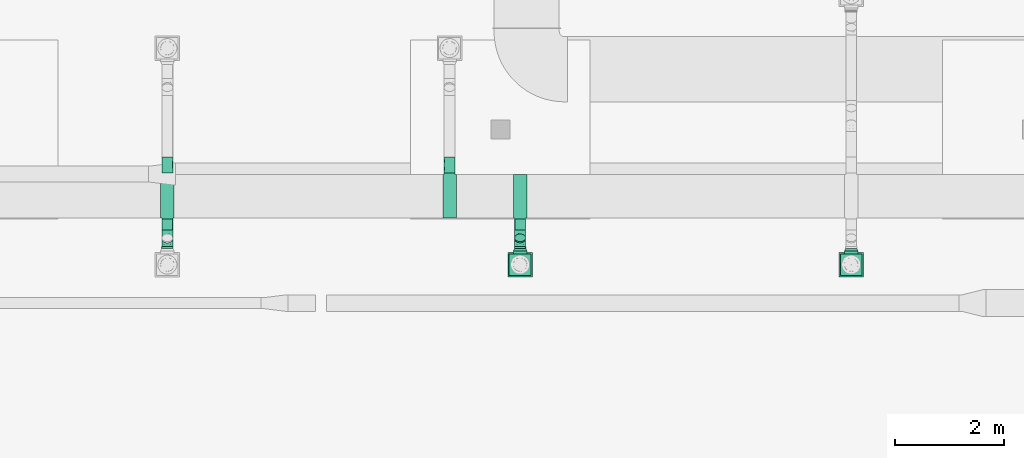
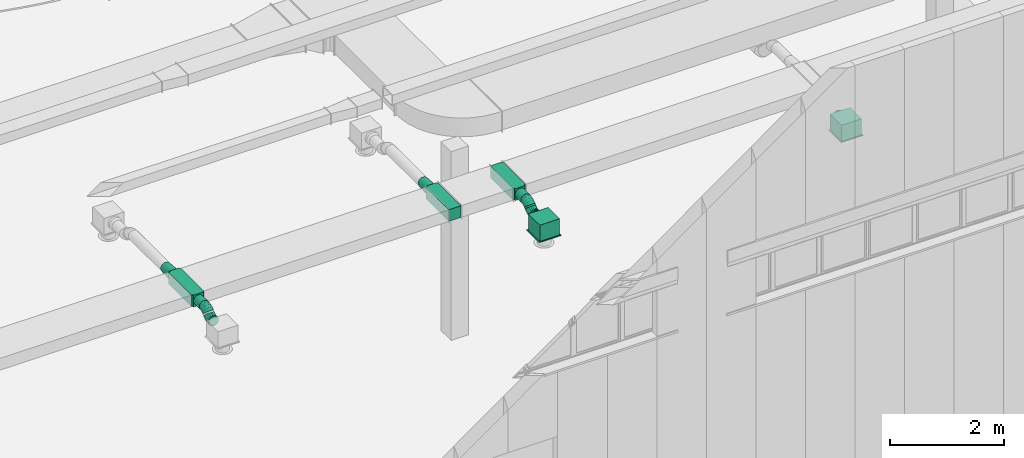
# One storey, part 262 of 302: 11 flow fittings, 5 flow segments, 2 flow terminals.
"""IFC2X3 building model written with IfcOpenShell, lengths in metres."""

from ifc_helpers import new_model, entity, si_unit, converted_unit, derived_unit, direction, frame, frame_2d, origin, origin_2d_with_axis, place, context, subcontext, project, spatial, polyline, rectangle, circle, outline, extrude, faceted_brep, source, transform, mapped, material, material_list, type_object, type_shapes, element, save


model = new_model("IFC2X3")

# Units and contexts
model_context = context("Model", 3, precision=1e-05, world=origin(), true_north=direction((6.12303176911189e-17, 1.0)))
body_context = subcontext(model_context, "Body", "Model", "MODEL_VIEW")
ifc_project = project(units=[si_unit("LENGTHUNIT", "METRE"), si_unit("AREAUNIT", "SQUARE_METRE"), si_unit("VOLUMEUNIT", "CUBIC_METRE"), converted_unit("PLANEANGLEUNIT", "DEGREE", entity("IfcRatioMeasure", 0.0174532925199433), si_unit("PLANEANGLEUNIT", "RADIAN"), dimensions=[0, 0, 0, 0, 0, 0, 0]), si_unit("MASSUNIT", "GRAM", prefix="KILO"), derived_unit("MASSDENSITYUNIT", [(si_unit("MASSUNIT", "GRAM", prefix="KILO"), 1), (si_unit("LENGTHUNIT", "METRE"), -3)]), derived_unit("MOMENTOFINERTIAUNIT", [(si_unit("LENGTHUNIT", "METRE"), 4)]), si_unit("TIMEUNIT", "SECOND"), si_unit("FREQUENCYUNIT", "HERTZ"), si_unit("THERMODYNAMICTEMPERATUREUNIT", "DEGREE_CELSIUS"), derived_unit("THERMALTRANSMITTANCEUNIT", [(si_unit("MASSUNIT", "GRAM", prefix="KILO"), 1), (si_unit("THERMODYNAMICTEMPERATUREUNIT", "KELVIN"), -1), (si_unit("TIMEUNIT", "SECOND"), -3)]), derived_unit("VOLUMETRICFLOWRATEUNIT", [(si_unit("LENGTHUNIT", "METRE"), 3), (si_unit("TIMEUNIT", "SECOND"), -1)]), si_unit("ELECTRICCURRENTUNIT", "AMPERE"), si_unit("ELECTRICVOLTAGEUNIT", "VOLT"), si_unit("POWERUNIT", "WATT"), si_unit("FORCEUNIT", "NEWTON", prefix="KILO"), si_unit("ILLUMINANCEUNIT", "LUX"), si_unit("LUMINOUSFLUXUNIT", "LUMEN"), si_unit("LUMINOUSINTENSITYUNIT", "CANDELA"), derived_unit("USERDEFINED", [(si_unit("MASSUNIT", "GRAM", prefix="KILO"), -1), (si_unit("LENGTHUNIT", "METRE"), -2), (si_unit("TIMEUNIT", "SECOND"), 3), (si_unit("LUMINOUSFLUXUNIT", "LUMEN"), 1)]), derived_unit("LINEARVELOCITYUNIT", [(si_unit("LENGTHUNIT", "METRE"), 1), (si_unit("TIMEUNIT", "SECOND"), -1)]), si_unit("PRESSUREUNIT", "PASCAL"), derived_unit("USERDEFINED", [(si_unit("LENGTHUNIT", "METRE"), -2), (si_unit("MASSUNIT", "GRAM", prefix="KILO"), 1), (si_unit("TIMEUNIT", "SECOND"), -2)]), derived_unit("LINEARFORCEUNIT", [(si_unit("MASSUNIT", "GRAM", prefix="KILO"), 1), (si_unit("LENGTHUNIT", "METRE"), 1), (si_unit("TIMEUNIT", "SECOND"), -2), (si_unit("LENGTHUNIT", "METRE"), -1)]), derived_unit("PLANARFORCEUNIT", [(si_unit("MASSUNIT", "GRAM", prefix="KILO"), 1), (si_unit("LENGTHUNIT", "METRE"), 1), (si_unit("TIMEUNIT", "SECOND"), -2), (si_unit("LENGTHUNIT", "METRE"), -2)])], contexts=[model_context])

# Site, building, storey
site_placement = place(None, origin())
site = spatial("IfcSite", under=ifc_project, at=site_placement, Name="Default", CompositionType="ELEMENT")
building_placement = place(site_placement, origin())
building = spatial("IfcBuilding", under=site, at=building_placement, CompositionType="ELEMENT")
storey_placement = place(building_placement, frame((0.0, 0.0, -1.3)))
storey = spatial("IfcBuildingStorey", under=building, at=storey_placement, Name="00_EG", CompositionType="ELEMENT", Elevation=-1.3)

# Flow segments
duct_segment_type = type_object("IfcDuctSegmentType", Name="Rund:STR_Segment_RND_GS_EA", PredefinedType="NOTDEFINED")
flow_segment_1_placement = place(storey_placement, origin())
element("IfcFlowSegment", 1, at=flow_segment_1_placement, inside=storey, type_object=duct_segment_type, Name="Rund:STR_Segment_RND_GS_EA", ObjectType="Rund:STR_Segment_RND_GS_EA", context=body_context, shape_type="SweptSolid", body=[
    extrude(circle(Radius=0.1, at=origin_2d_with_axis()), frame((-246.571240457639, 21.4325516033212, 5.04357873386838), z_axis=(0.0, 0.707106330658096, 0.707107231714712), x_axis=(1.0, 0.0, 0.0)), (0.0, 0.0, 1.0), 0.0323041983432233),
])
flow_segment_2_placement = place(storey_placement, origin())
element("IfcFlowSegment", 2, at=flow_segment_2_placement, inside=storey, type_object=duct_segment_type, Name="Rund:STR_Segment_RND_GS_EA", ObjectType="Rund:STR_Segment_RND_GS_EA", context=body_context, shape_type="SweptSolid", body=[
    extrude(circle(Radius=0.1, at=origin_2d_with_axis()), frame((-246.571240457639, 21.2618155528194, 4.985), z_axis=(0.0, 1.0, 0.0), x_axis=(1.0, 0.0, 0.0)), (0.0, 0.0, 1.0), 0.0293146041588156),
])
flow_segment_3_placement = place(storey_placement, origin())
element("IfcFlowSegment", 3, at=flow_segment_3_placement, inside=storey, type_object=duct_segment_type, Name="Rund:STR_Segment_RND_GS_EA", ObjectType="Rund:STR_Segment_RND_GS_EA", context=body_context, shape_type="SweptSolid", body=[
    extrude(circle(Radius=0.1, at=origin_2d_with_axis()), frame((-246.571240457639, 21.5968155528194, 5.12500000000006), z_axis=(0.0, 1.0, 0.0), x_axis=(1.0, 0.0, 0.0)), (0.0, 0.0, 1.0), 0.200000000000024),
])
flow_segment_4_placement = place(storey_placement, origin())
element("IfcFlowSegment", 4, at=flow_segment_4_placement, inside=storey, type_object=duct_segment_type, Name="Rund:STR_Segment_RND_GS_EA", ObjectType="Rund:STR_Segment_RND_GS_EA", context=body_context, shape_type="SweptSolid", body=[
    extrude(circle(Radius=0.1, at=origin_2d_with_axis()), frame((-253.062285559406, 21.2618155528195, 4.985), z_axis=(0.0, 1.0, 0.0), x_axis=(1.0, 0.0, 0.0)), (0.0, 0.0, 1.0), 0.0293146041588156),
])
flow_segment_5_placement = place(storey_placement, origin())
element("IfcFlowSegment", 5, at=flow_segment_5_placement, inside=storey, type_object=duct_segment_type, Name="Rund:STR_Segment_RND_GS_EA", ObjectType="Rund:STR_Segment_RND_GS_EA", context=body_context, shape_type="SweptSolid", body=[
    extrude(circle(Radius=0.1, at=origin_2d_with_axis()), frame((-253.062285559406, 21.5968155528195, 5.12500000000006), z_axis=(0.0, 1.0, 0.0), x_axis=(1.0, 0.0, 0.0)), (0.0, 0.0, 1.0), 0.200000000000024),
])

# Flow fittings
ifc_material = material(Name="<Unnamed>")
duct_fitting_type_1 = type_object("IfcDuctFittingType", Name="STR_RCT_Cross:STR_Cross_RCT_GS_RA", PredefinedType="NOTDEFINED", material=ifc_material)
shared_shape_1 = source(origin(), body_context, "Body", "SweptSolid", [
    extrude(outline(polyline([(-0.424999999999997, 0.0999999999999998), (-0.424999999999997, -0.1), (-0.400000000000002, -0.1), (-0.400000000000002, -0.124999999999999), (0.399999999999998, -0.124999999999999), (0.399999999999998, -0.100000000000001), (0.425000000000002, -0.100000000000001), (0.425000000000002, 0.0999999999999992), (0.399999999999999, 0.0999999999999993), (0.399999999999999, 0.125000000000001), (-0.400000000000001, 0.125000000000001), (-0.400000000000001, 0.0999999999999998), (-0.424999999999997, 0.0999999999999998)])), frame((0.0, 0.0, -0.125000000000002), z_axis=(0.0, 0.0, -1.0), x_axis=(0.0, 1.0, 0.0)), (0.0, 0.0, -1.0), 0.25),
])
type_shapes(duct_fitting_type_1, [shared_shape_1])
flow_fitting_1_placement = place(storey_placement, frame((-253.062285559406, 22.2218155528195, 5.125)))
element("IfcFlowFitting", 6, at=flow_fitting_1_placement, inside=storey, type_object=duct_fitting_type_1, material=ifc_material, Name="STR_RCT_Cross:STR_Cross_RCT_GS_RA", ObjectType="STR_RCT_Cross:STR_Cross_RCT_GS_RA", context=body_context, shape_type="MappedRepresentation", body=[
    mapped(shared_shape_1, transform((0.0, 0.0, 0.0), scale=1.0)),
])
duct_fitting_type_2 = type_object("IfcDuctFittingType", Name="STR_OVL_Transition:STR_Transition_OVL_GS_EA", PredefinedType="NOTDEFINED", material=ifc_material)
shared_shape_2 = source(origin(), body_context, "Body", "Brep", [
    faceted_brep([(0.300000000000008, 0.0999999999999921, 0.00158749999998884), (0.300000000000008, 0.0966466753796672, 0.0270585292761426), (0.300000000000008, 0.0868152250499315, 0.050793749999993), (0.300000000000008, 0.0711756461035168, 0.0711756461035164), (0.300000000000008, 0.0507937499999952, 0.0868152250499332), (0.300000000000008, 0.0270585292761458, 0.0966466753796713), (0.300000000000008, 0.00158749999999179, 0.0999999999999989), (0.300000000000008, -0.00158750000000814, 0.0999999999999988), (0.300000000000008, -0.0270585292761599, 0.0966466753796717), (0.300000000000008, -0.0507937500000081, 0.0868152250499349), (0.300000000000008, -0.0711756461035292, 0.07117564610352), (0.300000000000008, -0.0868152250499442, 0.0507937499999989), (0.300000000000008, -0.0966466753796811, 0.0270585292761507), (0.300000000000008, -0.100000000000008, 0.00158749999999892), (0.300000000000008, -0.100000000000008, -0.00158750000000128), (0.300000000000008, -0.0966466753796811, -0.0270585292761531), (0.300000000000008, -0.0868152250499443, -0.0507937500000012), (0.300000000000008, -0.0711756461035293, -0.0711756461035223), (0.300000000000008, -0.0507937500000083, -0.0868152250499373), (0.300000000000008, -0.0270585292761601, -0.0966466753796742), (0.300000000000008, -0.00158750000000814, -0.100000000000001), (0.300000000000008, 0.0015874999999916, -0.100000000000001), (0.300000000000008, 0.0270585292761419, -0.0966466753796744), (0.300000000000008, 0.0507937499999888, -0.0868152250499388), (0.300000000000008, 0.0711756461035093, -0.0711756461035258), (0.300000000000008, 0.0868152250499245, -0.0507937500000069), (0.300000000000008, 0.0966466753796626, -0.0270585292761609), (0.300000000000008, 0.0999999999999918, -0.00158750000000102), (0.0, 0.00158749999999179, -0.125000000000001), (0.0, -0.00158750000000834, -0.125000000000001), (0.0, -0.0270585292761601, -0.121646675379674), (0.0, -0.0507937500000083, -0.111815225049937), (0.0, -0.0711756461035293, -0.0961756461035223), (0.0, -0.0868152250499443, -0.0757937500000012), (0.0, -0.0966466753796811, -0.0520585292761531), (0.0, -0.100000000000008, -0.026587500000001), (0.0, -0.100000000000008, 0.0265874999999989), (0.0, -0.0966466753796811, 0.0520585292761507), (0.0, -0.0868152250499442, 0.0757937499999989), (0.0, -0.0711756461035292, 0.0961756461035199), (0.0, -0.0507937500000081, 0.111815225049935), (0.0, -0.0270585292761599, 0.121646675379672), (0.0, -0.00158750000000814, 0.124999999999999), (0.0, 0.00158749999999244, 0.124999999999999), (0.0, 0.0270585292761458, 0.121646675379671), (0.0, 0.0507937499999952, 0.111815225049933), (0.0, 0.0711756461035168, 0.0961756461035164), (0.0, 0.0868152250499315, 0.0757937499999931), (0.0, 0.0966466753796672, 0.0520585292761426), (0.0, 0.0999999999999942, 0.026587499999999), (0.0, 0.0999999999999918, -0.0265875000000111), (0.0, 0.0966466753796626, -0.052058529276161), (0.0, 0.0868152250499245, -0.0757937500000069), (0.0, 0.0711756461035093, -0.0961756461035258), (0.0, 0.0507937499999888, -0.111815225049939), (0.0, 0.0270585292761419, -0.121646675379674), (0.154247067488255, -0.0203412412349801, 0.110342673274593), (0.145752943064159, -0.0981965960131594, 0.03319516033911), (0.107489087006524, -0.00158750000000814, 0.116042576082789), (0.149999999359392, -0.0614972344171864, 0.0921633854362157), (0.15000000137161, -0.0392483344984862, 0.105008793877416), (0.150000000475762, -0.0796633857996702, 0.0739972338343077), (0.192510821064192, -0.100000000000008, 0.0105449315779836), (0.149999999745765, -0.0925087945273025, 0.0517483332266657), (0.107489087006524, -0.100000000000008, -0.0176300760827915), (0.154247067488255, -0.0981965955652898, -0.0324873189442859), (0.145752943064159, -0.0203412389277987, -0.111050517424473), (0.149999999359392, -0.0796633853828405, -0.0739972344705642), (0.15000000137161, -0.0925087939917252, -0.0517483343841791), (0.150000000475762, -0.0614972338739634, -0.0921633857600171), (0.192511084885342, -0.00158750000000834, -0.10895740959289), (0.149999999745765, -0.0392483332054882, -0.105008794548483), (0.107489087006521, 0.0015874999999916, -0.116042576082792), (0.154247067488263, 0.0203412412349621, -0.110342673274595), (0.145752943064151, 0.0981965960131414, -0.0331951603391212), (0.149999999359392, 0.0614972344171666, -0.0921633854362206), (0.15000000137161, 0.0392483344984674, -0.105008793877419), (0.150000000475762, 0.0796633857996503, -0.0739972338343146), (0.192510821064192, 0.0999999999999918, -0.0105449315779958), (0.149999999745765, 0.0925087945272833, -0.0517483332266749), (0.107489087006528, 0.0999999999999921, 0.0176300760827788), (0.154247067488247, 0.0981965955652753, 0.0324873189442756), (0.145752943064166, 0.0203412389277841, 0.11105051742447), (0.149999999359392, 0.079663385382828, 0.0739972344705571), (0.15000000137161, 0.0925087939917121, 0.0517483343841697), (0.150000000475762, 0.0614972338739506, 0.0921633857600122), (0.192510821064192, 0.00158749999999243, 0.108957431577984), (0.149999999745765, 0.0392483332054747, 0.105008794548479)], [[[0, 1, 2, 3, 4, 5, 6, 7, 8, 9, 10, 11, 12, 13, 14, 15, 16, 17, 18, 19, 20, 21, 22, 23, 24, 25, 26, 27]], [[28, 29, 30, 31, 32, 33, 34, 35, 36, 37, 38, 39, 40, 41, 42, 43, 44, 45, 46, 47, 48, 49, 50, 51, 52, 53, 54, 55]], [[56, 42, 41]], [[36, 57, 37]], [[56, 7, 58, 42]], [[40, 39, 59]], [[41, 60, 56]], [[59, 60, 40]], [[61, 59, 39]], [[41, 40, 60]], [[8, 56, 60]], [[10, 9, 59]], [[9, 60, 59]], [[57, 36, 62, 13]], [[38, 37, 63]], [[63, 61, 38]], [[12, 57, 13]], [[12, 63, 57]], [[9, 8, 60]], [[10, 61, 11]], [[12, 11, 63]], [[63, 11, 61]], [[37, 57, 63]], [[61, 10, 59]], [[61, 39, 38]], [[7, 56, 8]], [[35, 64, 14, 13, 62, 36]], [[65, 35, 34]], [[29, 66, 30]], [[65, 14, 64, 35]], [[33, 32, 67]], [[34, 68, 65]], [[67, 68, 33]], [[69, 67, 32]], [[34, 33, 68]], [[15, 65, 68]], [[17, 16, 67]], [[16, 68, 67]], [[66, 29, 70, 20]], [[31, 30, 71]], [[71, 69, 31]], [[19, 66, 20]], [[19, 71, 66]], [[16, 15, 68]], [[17, 69, 18]], [[19, 18, 71]], [[71, 18, 69]], [[30, 66, 71]], [[69, 17, 67]], [[69, 32, 31]], [[14, 65, 15]], [[28, 72, 21, 20, 70, 29]], [[73, 28, 55]], [[50, 74, 51]], [[73, 21, 72, 28]], [[54, 53, 75]], [[55, 76, 73]], [[75, 76, 54]], [[77, 75, 53]], [[55, 54, 76]], [[22, 73, 76]], [[24, 23, 75]], [[23, 76, 75]], [[74, 50, 78, 27]], [[52, 51, 79]], [[79, 77, 52]], [[26, 74, 27]], [[26, 79, 74]], [[23, 22, 76]], [[24, 77, 25]], [[26, 25, 79]], [[79, 25, 77]], [[51, 74, 79]], [[77, 24, 75]], [[77, 53, 52]], [[21, 73, 22]], [[49, 80, 0, 27, 78, 50]], [[81, 49, 48]], [[43, 82, 44]], [[81, 0, 80, 49]], [[47, 46, 83]], [[48, 84, 81]], [[83, 84, 47]], [[85, 83, 46]], [[48, 47, 84]], [[1, 81, 84]], [[3, 2, 83]], [[2, 84, 83]], [[82, 43, 86, 6]], [[45, 44, 87]], [[87, 85, 45]], [[5, 82, 6]], [[5, 87, 82]], [[2, 1, 84]], [[3, 85, 4]], [[5, 4, 87]], [[87, 4, 85]], [[44, 82, 87]], [[85, 3, 83]], [[85, 46, 45]], [[0, 81, 1]], [[42, 58, 7, 6, 86, 43]]]),
])
type_shapes(duct_fitting_type_2, [shared_shape_2])
for number, where, z_axis, x_axis in (
    (7, (-247.869417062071, 22.6468155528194, 5.12499999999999), (0.0, 0.0, 1.0), (0.0, 1.0, 0.0)),
    (8, (-253.062285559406, 22.6468155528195, 5.125), (0.0, 0.0, 1.0), (0.0, 1.0, 0.0)),
):
    element("IfcFlowFitting", number, at=place(storey_placement, frame(where, z_axis=z_axis, x_axis=x_axis)), inside=storey, type_object=duct_fitting_type_2, material=ifc_material, Name="STR_OVL_Transition:STR_Transition_OVL_GS_EA", ObjectType="STR_OVL_Transition:STR_Transition_OVL_GS_EA", context=body_context, shape_type="MappedRepresentation", body=[
        mapped(shared_shape_2, transform((0.0, 0.0, 0.0), scale=1.0)),
    ])

# Flow terminals
ifc_material_list = material_list([ifc_material, ifc_material, ifc_material])
air_terminal_type = type_object("IfcAirTerminalType", Name="Drallauslass Zuluft seitlich:600 quadratisch", PredefinedType="NOTDEFINED", material=ifc_material_list)
shared_shape_3 = source(origin(), body_context, "Body", "SweptSolid", [
    extrude(rectangle(XDim=0.450000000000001, YDim=0.449999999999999, at=origin_2d_with_axis()), frame((0.0, 0.0, 2.692), z_axis=(0.0, 0.0, 1.0), x_axis=(0.0, 1.0, 0.0)), (0.0, 0.0, 1.0), 0.00800000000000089),
    extrude(circle(Radius=0.125, at=frame_2d((1.22275294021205e-18, -5.41433564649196e-16), x_axis=(1.0, 0.0))), frame((-0.25, 0.0, 2.89500000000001), z_axis=(1.0, 0.0, 0.0), x_axis=(0.0, -1.0, 0.0)), (0.0, 0.0, 1.0), 0.0499999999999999),
    extrude(rectangle(XDim=0.4, YDim=0.399999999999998, at=origin_2d_with_axis()), frame((0.0, 0.0, 2.7), z_axis=(0.0, 0.0, 1.0), x_axis=(0.0, 1.0, 0.0)), (0.0, 0.0, 1.0), 0.345000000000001),
])
type_shapes(air_terminal_type, [shared_shape_3])
for number, where, z_axis, x_axis, name in (
    (9, (-240.478749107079, 20.9618155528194, 2.08999999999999), (0.0, 0.0, 1.0), (0.0, -1.0, 0.0), "Drallauslass Zuluft seitlich:600 quadratisch"),
    (10, (-246.571240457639, 20.9618155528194, 2.08999999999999), (0.0, 0.0, 1.0), (0.0, -1.0, 0.0), "Drallauslass Zuluft seitlich:600 quadratisch"),
):
    element("IfcFlowTerminal", number, at=place(storey_placement, frame(where, z_axis=z_axis, x_axis=x_axis)), inside=storey, type_object=air_terminal_type, material=ifc_material, Name=name, ObjectType="Drallauslass Zuluft seitlich:600 quadratisch", context=body_context, shape_type="MappedRepresentation", body=[
        mapped(shared_shape_3, transform((0.0, 0.0, 0.0), scale=1.0)),
    ])

# Flow fittings
duct_fitting_type_3 = type_object("IfcDuctFittingType", Name="STR_RND_Transition:STR_Transition_RND_GS_EA", PredefinedType="NOTDEFINED", material=ifc_material)
shared_shape_4 = source(origin(), body_context, "Body", "Brep", [
    faceted_brep([(0.0500000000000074, -0.0587785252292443, -0.0809016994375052), (0.0500000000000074, -0.0309016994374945, -0.0951056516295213), (0.0500000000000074, 0.0, -0.10000000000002), (0.0500000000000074, 0.0309016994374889, -0.0951056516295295), (0.0500000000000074, 0.058778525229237, -0.0809016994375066), (0.0500000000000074, 0.0809016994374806, -0.0587785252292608), (0.0500000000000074, 0.0951056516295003, -0.0309016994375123), (0.0500000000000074, 0.0999999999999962, 0.0), (0.0500000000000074, 0.0951056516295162, 0.0309016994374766), (0.0500000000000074, 0.0809016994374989, 0.0587785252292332), (0.0500000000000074, 0.0587785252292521, 0.0809016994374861), (0.0500000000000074, 0.0309016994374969, 0.0951056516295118), (0.0500000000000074, 0.0, 0.0999999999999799), (0.0500000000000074, -0.0309016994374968, 0.0951056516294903), (0.0500000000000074, -0.058778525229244, 0.0809016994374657), (0.0500000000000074, -0.0809016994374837, 0.0587785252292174), (0.0500000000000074, -0.0951056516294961, 0.0309016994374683), (0.0500000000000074, -0.100000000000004, 0.0), (0.0500000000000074, -0.0951056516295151, -0.030901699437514), (0.0500000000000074, -0.0809016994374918, -0.0587785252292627), (0.0, -0.124999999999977, 0.0), (0.0, -0.118882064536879, 0.038627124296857), (0.0, -0.101127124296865, 0.073473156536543), (0.0, -0.0734731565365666, 0.101127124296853), (0.0, -0.0386271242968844, 0.118882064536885), (0.0, 0.0, 0.125000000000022), (0.0, 0.0386271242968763, 0.11888206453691), (0.0, 0.0734731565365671, 0.101127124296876), (0.0, 0.101127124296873, 0.0734731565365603), (0.0, 0.118882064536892, 0.038627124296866), (0.0, 0.124999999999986, 0.0), (0.0, 0.118882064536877, -0.0386271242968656), (0.0, 0.101127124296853, -0.0734731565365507), (0.0, 0.0734731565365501, -0.101127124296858), (0.0, 0.0386271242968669, -0.118882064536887), (0.0, 0.0, -0.124999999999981), (0.0, -0.0386271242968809, -0.118882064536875), (0.0, -0.0734731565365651, -0.101127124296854), (0.0, -0.101127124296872, -0.0734731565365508), (0.0, -0.118882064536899, -0.0386271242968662)], [[[0, 1, 2, 3, 4, 5, 6, 7, 8, 9, 10, 11, 12, 13, 14, 15, 16, 17, 18, 19]], [[20, 21, 22, 23, 24, 25, 26, 27, 28, 29, 30, 31, 32, 33, 34, 35, 36, 37, 38, 39]], [[26, 25, 12, 11]], [[27, 26, 11, 10]], [[10, 9, 28, 27]], [[8, 7, 30, 29]], [[9, 8, 29, 28]], [[21, 20, 17, 16]], [[22, 21, 16, 15]], [[15, 14, 23, 22]], [[13, 12, 25, 24]], [[14, 13, 24, 23]], [[36, 35, 2, 1]], [[37, 36, 1, 0]], [[0, 19, 38, 37]], [[18, 17, 20, 39]], [[19, 18, 39, 38]], [[31, 30, 7, 6]], [[32, 31, 6, 5]], [[5, 4, 33, 32]], [[3, 2, 35, 34]], [[4, 3, 34, 33]]]),
])
type_shapes(duct_fitting_type_3, [shared_shape_4])
for number, where, z_axis, x_axis in (
    (11, (-240.478749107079, 21.2118155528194, 4.985), (0.0, 0.0, 1.0), (0.0, 1.0, 0.0)),
    (12, (-246.571240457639, 21.2118155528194, 4.985), (0.0, 0.0, 1.0), (0.0, 1.0, 0.0)),
):
    element("IfcFlowFitting", number, at=place(storey_placement, frame(where, z_axis=z_axis, x_axis=x_axis)), inside=storey, type_object=duct_fitting_type_3, material=ifc_material, Name="STR_RND_Transition:STR_Transition_RND_GS_EA", ObjectType="STR_RND_Transition:STR_Transition_RND_GS_EA", context=body_context, shape_type="MappedRepresentation", body=[
        mapped(shared_shape_4, transform((0.0, 0.0, 0.0), scale=1.0)),
    ])
duct_fitting_type_4 = type_object("IfcDuctFittingType", Name="STR_RND_Elbow:STR_Elbow_RND_GS_EA", PredefinedType="NOTDEFINED", material=ifc_material)
shared_shape_5 = source(origin(), body_context, "Body", "Brep", [
    faceted_brep([(-0.0438246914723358, 0.00384295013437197, 0.0999999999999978), (-0.0498533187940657, 0.0341508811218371, 0.0951056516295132), (-0.0828427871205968, 0.0309016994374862, 0.0951056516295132), (-0.0828427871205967, 0.0, 0.0999999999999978), (-0.0552918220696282, 0.061492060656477, 0.0809016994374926), (-0.0828427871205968, 0.0587785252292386, 0.0809016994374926), (-0.0596078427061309, 0.0831901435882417, 0.0587785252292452), (-0.0828427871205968, 0.0809016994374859, 0.0587785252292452), (-0.0623788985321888, 0.097121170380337, 0.0309016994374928), (-0.0828427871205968, 0.0951056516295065, 0.0309016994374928), (-0.0633337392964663, 0.101921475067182, 0.0), (-0.0828427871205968, 0.0999999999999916, 0.0), (-0.0623788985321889, 0.0971211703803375, -0.030901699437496), (-0.0828427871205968, 0.095105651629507, -0.030901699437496), (-0.059607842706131, 0.0831901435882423, -0.0587785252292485), (-0.0828427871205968, 0.0809016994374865, -0.0587785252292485), (-0.0552918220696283, 0.0614920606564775, -0.0809016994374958), (-0.0828427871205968, 0.0587785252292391, -0.0809016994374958), (-0.0498533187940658, 0.0341508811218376, -0.0951056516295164), (-0.0828427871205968, 0.0309016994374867, -0.0951056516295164), (-0.043824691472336, 0.00384295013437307, -0.100000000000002), (-0.0828427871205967, 0.0, -0.100000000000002), (-0.037796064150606, -0.0264649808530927, -0.0951056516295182), (-0.0828427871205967, -0.0309016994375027, -0.0951056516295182), (-0.0323575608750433, -0.0538061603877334, -0.0809016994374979), (-0.0828427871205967, -0.0587785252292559, -0.0809016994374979), (-0.0280415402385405, -0.075504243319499, -0.0587785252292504), (-0.0828427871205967, -0.080901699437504, -0.0587785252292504), (-0.0252704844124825, -0.0894352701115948, -0.0309016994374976), (-0.0828427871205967, -0.0951056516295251, -0.0309016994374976), (-0.0243156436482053, -0.0942355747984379, 0.0), (-0.0828427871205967, -0.100000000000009, 0.0), (-0.0252704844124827, -0.0894352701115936, 0.0309016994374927), (-0.0828427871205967, -0.0951056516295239, 0.0309016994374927), (-0.0280415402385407, -0.0755042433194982, 0.0587785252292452), (-0.0828427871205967, -0.0809016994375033, 0.0587785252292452), (-0.0323575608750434, -0.0538061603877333, 0.0809016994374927), (-0.0828427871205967, -0.0587785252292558, 0.0809016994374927), (-0.0377960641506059, -0.0264649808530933, 0.0951056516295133), (-0.0828427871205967, -0.0309016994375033, 0.0951056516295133), (-0.00630604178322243, 0.0152241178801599, 0.0999999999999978), (-0.0181316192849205, 0.0437735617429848, 0.0951056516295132), (-0.028799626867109, 0.0695283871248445, 0.0809016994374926), (-0.037265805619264, 0.0899675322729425, 0.0587785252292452), (-0.0427014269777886, 0.103090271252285, 0.0309016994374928), (-0.0445744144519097, 0.107612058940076, 0.0), (-0.0427014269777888, 0.103090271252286, -0.030901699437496), (-0.0372658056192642, 0.089967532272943, -0.0587785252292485), (-0.0287996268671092, 0.069528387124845, -0.0809016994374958), (-0.0181316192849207, 0.0437735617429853, -0.0951056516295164), (-0.00630604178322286, 0.015224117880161, -0.100000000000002), (0.00551953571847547, -0.0133253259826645, -0.0951056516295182), (0.0161875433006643, -0.039080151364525, -0.0809016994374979), (0.0246537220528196, -0.0595192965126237, -0.0587785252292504), (0.0300893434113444, -0.0726420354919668, -0.0309016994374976), (0.0319623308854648, -0.077163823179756, 0.0), (0.0300893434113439, -0.0726420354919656, 0.0309016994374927), (0.0246537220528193, -0.059519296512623, 0.0587785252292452), (0.0161875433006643, -0.0390801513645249, 0.0809016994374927), (0.0055195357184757, -0.0133253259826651, 0.0951056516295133), (0.0282713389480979, 0.0337061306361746, 0.0999999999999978), (0.0111032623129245, 0.0593999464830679, 0.0951056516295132), (-0.00438428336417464, 0.0825786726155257, 0.0809016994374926), (-0.0166752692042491, 0.100973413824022, 0.0587785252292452), (-0.0245665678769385, 0.112783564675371, 0.0309016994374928), (-0.0272857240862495, 0.116853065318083, 0.0), (-0.0245665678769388, 0.112783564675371, -0.030901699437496), (-0.0166752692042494, 0.100973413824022, -0.0587785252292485), (-0.00438428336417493, 0.0825786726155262, -0.0809016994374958), (0.0111032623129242, 0.0593999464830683, -0.0951056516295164), (0.0282713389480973, 0.0337061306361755, -0.100000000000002), (0.0454394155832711, 0.00801231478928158, -0.0951056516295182), (0.0609269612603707, -0.0151664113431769, -0.0809016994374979), (0.0732179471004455, -0.0335611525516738, -0.0587785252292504), (0.0811092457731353, -0.0453713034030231, -0.0309016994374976), (0.0838284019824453, -0.049440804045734, 0.0), (0.0811092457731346, -0.0453713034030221, 0.0309016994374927), (0.0732179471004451, -0.0335611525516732, 0.0587785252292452), (0.0609269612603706, -0.0151664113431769, 0.0809016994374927), (0.0454394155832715, 0.00801231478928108, 0.0951056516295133), (0.0585786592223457, 0.0585787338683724, 0.0999999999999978), (0.0367278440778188, 0.0804295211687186, 0.0951056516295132), (0.0170159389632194, 0.10014140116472, 0.0809016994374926), (0.00137248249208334, 0.115784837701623, 0.0587785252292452), (-0.00867123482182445, 0.125828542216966, 0.0309016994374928), (-0.0121320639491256, 0.129289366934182, 0.0), (-0.00867123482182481, 0.125828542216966, -0.030901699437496), (0.00137248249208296, 0.115784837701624, -0.0587785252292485), (0.0170159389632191, 0.10014140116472, -0.0809016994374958), (0.0367278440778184, 0.080429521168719, -0.0951056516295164), (0.0585786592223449, 0.0585787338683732, -0.100000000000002), (0.0804294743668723, 0.0367279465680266, -0.0951056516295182), (0.100141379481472, 0.0170160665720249, -0.0809016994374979), (0.115784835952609, 0.00137263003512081, -0.0587785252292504), (0.125828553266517, -0.00867107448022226, -0.0309016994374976), (0.129289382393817, -0.0121318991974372, 0.0), (0.125828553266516, -0.00867107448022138, 0.0309016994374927), (0.115784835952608, 0.00137263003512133, 0.0587785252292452), (0.100141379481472, 0.017016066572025, 0.0809016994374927), (0.0804294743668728, 0.0367279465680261, 0.0951056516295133)], [[[0, 1, 2, 3]], [[1, 4, 5, 2]], [[4, 6, 7, 5]], [[6, 8, 9, 7]], [[8, 10, 11, 9]], [[10, 12, 13, 11]], [[12, 14, 15, 13]], [[14, 16, 17, 15]], [[16, 18, 19, 17]], [[18, 20, 21, 19]], [[20, 22, 23, 21]], [[22, 24, 25, 23]], [[24, 26, 27, 25]], [[26, 28, 29, 27]], [[28, 30, 31, 29]], [[30, 32, 33, 31]], [[32, 34, 35, 33]], [[34, 36, 37, 35]], [[36, 38, 39, 37]], [[38, 0, 3, 39]], [[40, 41, 1, 0]], [[41, 42, 4, 1]], [[42, 43, 6, 4]], [[43, 44, 8, 6]], [[44, 45, 10, 8]], [[45, 46, 12, 10]], [[46, 47, 14, 12]], [[47, 48, 16, 14]], [[48, 49, 18, 16]], [[49, 50, 20, 18]], [[50, 51, 22, 20]], [[51, 52, 24, 22]], [[52, 53, 26, 24]], [[53, 54, 28, 26]], [[54, 55, 30, 28]], [[55, 56, 32, 30]], [[56, 57, 34, 32]], [[57, 58, 36, 34]], [[58, 59, 38, 36]], [[59, 40, 0, 38]], [[60, 61, 41, 40]], [[61, 62, 42, 41]], [[62, 63, 43, 42]], [[63, 64, 44, 43]], [[64, 65, 45, 44]], [[65, 66, 46, 45]], [[66, 67, 47, 46]], [[67, 68, 48, 47]], [[68, 69, 49, 48]], [[69, 70, 50, 49]], [[70, 71, 51, 50]], [[71, 72, 52, 51]], [[72, 73, 53, 52]], [[73, 74, 54, 53]], [[74, 75, 55, 54]], [[75, 76, 56, 55]], [[76, 77, 57, 56]], [[77, 78, 58, 57]], [[78, 79, 59, 58]], [[79, 60, 40, 59]], [[80, 81, 61, 60]], [[81, 82, 62, 61]], [[82, 83, 63, 62]], [[83, 84, 64, 63]], [[84, 85, 65, 64]], [[85, 86, 66, 65]], [[86, 87, 67, 66]], [[87, 88, 68, 67]], [[88, 89, 69, 68]], [[89, 90, 70, 69]], [[90, 91, 71, 70]], [[91, 92, 72, 71]], [[92, 93, 73, 72]], [[93, 94, 74, 73]], [[94, 95, 75, 74]], [[95, 96, 76, 75]], [[96, 97, 77, 76]], [[97, 98, 78, 77]], [[98, 99, 79, 78]], [[99, 80, 60, 79]], [[3, 2, 5, 7, 9, 11, 13, 15, 17, 19, 21, 23, 25, 27, 29, 31, 33, 35, 37, 39]], [[99, 98, 97, 96, 95, 94, 93, 92, 91, 90, 89, 88, 87, 86, 85, 84, 83, 82, 81, 80]]]),
])
type_shapes(duct_fitting_type_4, [shared_shape_5])
for number, where, z_axis, x_axis in (
    (13, (-246.571240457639, 21.3739729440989, 4.98500000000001), (1.0, 0.0, 0.0), (0.0, 1.0, 0.0)),
    (14, (-246.571240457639, 21.5139727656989, 5.12499999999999), (-1.0, 0.0, 0.0), (0.0, 0.707106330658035, 0.707107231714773)),
    (15, (-253.062285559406, 21.3739729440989, 4.98500000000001), (1.0, 0.0, 0.0), (0.0, 1.0, 0.0)),
    (16, (-253.062285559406, 21.5139727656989, 5.12499999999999), (-1.0, 0.0, 0.0), (0.0, 0.707106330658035, 0.707107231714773)),
):
    element("IfcFlowFitting", number, at=place(storey_placement, frame(where, z_axis=z_axis, x_axis=x_axis)), inside=storey, type_object=duct_fitting_type_4, material=ifc_material, Name="STR_RND_Elbow:STR_Elbow_RND_GS_EA", ObjectType="STR_RND_Elbow:STR_Elbow_RND_GS_EA", context=body_context, shape_type="MappedRepresentation", body=[
        mapped(shared_shape_5, transform((0.0, 0.0, 0.0), scale=1.0)),
    ])
duct_fitting_type_5 = type_object("IfcDuctFittingType", Name="STR_RCT_Tee:STR_Tee_RCT_GS_RA", PredefinedType="NOTDEFINED", material=ifc_material)
shared_shape_6 = source(origin(), body_context, "Body", "SweptSolid", [
    extrude(outline(polyline([(-0.125, 0.193750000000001), (-0.125, -0.60625), (0.125000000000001, -0.60625), (0.125000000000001, 0.193750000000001), (0.0999999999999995, 0.193750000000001), (0.0999999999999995, 0.218749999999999), (-0.100000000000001, 0.218749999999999), (-0.100000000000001, 0.193750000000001), (-0.125, 0.193750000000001)])), frame((0.0, -0.206250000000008, -0.125000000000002), z_axis=(0.0, 0.0, -1.0), x_axis=(1.0, 0.0, 0.0)), (0.0, 0.0, -1.0), 0.25),
])
type_shapes(duct_fitting_type_5, [shared_shape_6])
flow_fitting_2_placement = place(storey_placement, frame((-246.571240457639, 22.2218155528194, 5.125)))
element("IfcFlowFitting", 17, at=flow_fitting_2_placement, inside=storey, type_object=duct_fitting_type_5, material=ifc_material, Name="STR_RCT_Tee:STR_Tee_RCT_GS_RA", ObjectType="STR_RCT_Tee:STR_Tee_RCT_GS_RA", context=body_context, shape_type="MappedRepresentation", body=[
    mapped(shared_shape_6, transform((0.0, 0.0, 0.0), scale=1.0)),
])
flow_fitting_3_placement = place(storey_placement, frame((-247.869417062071, 22.2218155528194, 5.125), z_axis=(0.0, 0.0, 1.0), x_axis=(-1.0, 0.0, 0.0)))
element("IfcFlowFitting", 18, at=flow_fitting_3_placement, inside=storey, type_object=duct_fitting_type_5, material=ifc_material, Name="STR_RCT_Tee:STR_Tee_RCT_GS_RA", ObjectType="STR_RCT_Tee:STR_Tee_RCT_GS_RA", context=body_context, shape_type="MappedRepresentation", body=[
    mapped(shared_shape_6, transform((0.0, 0.0, 0.0), scale=1.0)),
])

save(model, "model.ifc")
